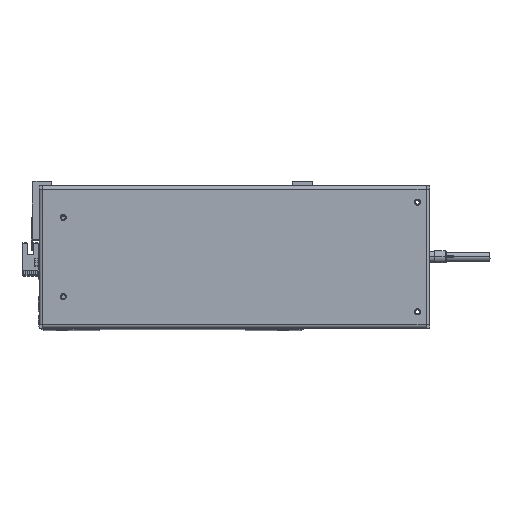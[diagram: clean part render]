
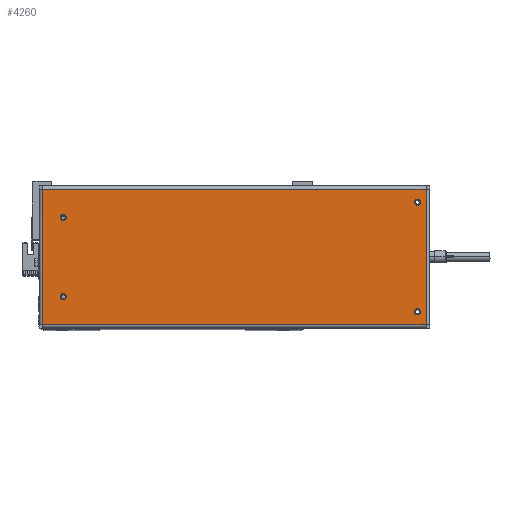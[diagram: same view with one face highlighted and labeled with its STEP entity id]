
A CAD part, top view. The second image highlights one B-rep face of the part: STEP entity #4260.
In plain terms, the highlighted planar face has unit normal (0, 0, 1).
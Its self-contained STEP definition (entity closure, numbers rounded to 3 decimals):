
#561 = VERTEX_POINT ( 'NONE', #34343 ) ;
#1110 = LINE ( 'NONE', #32255, #2465 ) ;
#1489 = CARTESIAN_POINT ( 'NONE',  ( -157.6, -55.6, 0. ) ) ;
#1651 = CIRCLE ( 'NONE', #2897, 2.5 ) ;
#1868 = DIRECTION ( 'NONE',  ( 1., 0., 0. ) ) ;
#1893 = ORIENTED_EDGE ( 'NONE', *, *, #34928, .T. ) ;
#2343 = VERTEX_POINT ( 'NONE', #22581 ) ;
#2355 = DIRECTION ( 'NONE',  ( 1., 0., 0. ) ) ;
#2450 = CIRCLE ( 'NONE', #6285, 2.5 ) ;
#2465 = VECTOR ( 'NONE', #14649, 1000. ) ;
#2897 = AXIS2_PLACEMENT_3D ( 'NONE', #5452, #38017, #17381 ) ;
#3111 = VERTEX_POINT ( 'NONE', #6008 ) ;
#3287 = CARTESIAN_POINT ( 'NONE',  ( 157.6, -55.6, 0. ) ) ;
#3309 = EDGE_LOOP ( 'NONE', ( #32192, #18634 ) ) ;
#4260 = ADVANCED_FACE ( 'NONE', ( #22640, #17963, #9576, #32453, #6731 ), #33094, .F. ) ;
#4299 = VERTEX_POINT ( 'NONE', #3287 ) ;
#4442 = VERTEX_POINT ( 'NONE', #1489 ) ;
#4484 = CARTESIAN_POINT ( 'NONE',  ( 153., 45., 0. ) ) ;
#4505 = EDGE_CURVE ( 'NONE', #29296, #8514, #24478, .T. ) ;
#5001 = EDGE_CURVE ( 'NONE', #31338, #35855, #2450, .T. ) ;
#5452 = CARTESIAN_POINT ( 'NONE',  ( -140.5, 32.5, 0. ) ) ;
#5898 = LINE ( 'NONE', #6632, #9705 ) ;
#5912 = ORIENTED_EDGE ( 'NONE', *, *, #38132, .F. ) ;
#6008 = CARTESIAN_POINT ( 'NONE',  ( 148., 45., 0. ) ) ;
#6285 = AXIS2_PLACEMENT_3D ( 'NONE', #35371, #11735, #38247 ) ;
#6632 = CARTESIAN_POINT ( 'NONE',  ( 157.7, 55.6, 0. ) ) ;
#6731 = FACE_OUTER_BOUND ( 'NONE', #35105, .T. ) ;
#7890 = LINE ( 'NONE', #9108, #9318 ) ;
#8514 = VERTEX_POINT ( 'NONE', #13318 ) ;
#8662 = CIRCLE ( 'NONE', #13573, 2.5 ) ;
#8829 = AXIS2_PLACEMENT_3D ( 'NONE', #29182, #20304, #2355 ) ;
#9108 = CARTESIAN_POINT ( 'NONE',  ( -157.6, 55.6, 0. ) ) ;
#9307 = EDGE_CURVE ( 'NONE', #561, #33883, #1651, .T. ) ;
#9318 = VECTOR ( 'NONE', #35635, 1000. ) ;
#9576 = FACE_BOUND ( 'NONE', #3309, .T. ) ;
#9605 = ORIENTED_EDGE ( 'NONE', *, *, #31990, .T. ) ;
#9705 = VECTOR ( 'NONE', #27560, 1000. ) ;
#10527 = AXIS2_PLACEMENT_3D ( 'NONE', #37928, #23029, #20040 ) ;
#10993 = DIRECTION ( 'NONE',  ( 1., 0., 0. ) ) ;
#11735 = DIRECTION ( 'NONE',  ( 0., 0., 1. ) ) ;
#13318 = CARTESIAN_POINT ( 'NONE',  ( 148., -45., 0. ) ) ;
#13573 = AXIS2_PLACEMENT_3D ( 'NONE', #20576, #26519, #10993 ) ;
#13917 = CARTESIAN_POINT ( 'NONE',  ( 150.5, -45., 0. ) ) ;
#14649 = DIRECTION ( 'NONE',  ( 0., 1., 0. ) ) ;
#14801 = EDGE_CURVE ( 'NONE', #33883, #561, #38730, .T. ) ;
#15829 = CIRCLE ( 'NONE', #28443, 2.5 ) ;
#17031 = DIRECTION ( 'NONE',  ( 1., 0., 0. ) ) ;
#17381 = DIRECTION ( 'NONE',  ( 1., 0., 0. ) ) ;
#17597 = AXIS2_PLACEMENT_3D ( 'NONE', #13917, #34799, #17031 ) ;
#17960 = DIRECTION ( 'NONE',  ( -1., 0., 0. ) ) ;
#17963 = FACE_BOUND ( 'NONE', #25025, .T. ) ;
#18168 = CARTESIAN_POINT ( 'NONE',  ( -138., -32.5, 0. ) ) ;
#18609 = ORIENTED_EDGE ( 'NONE', *, *, #14801, .F. ) ;
#18634 = ORIENTED_EDGE ( 'NONE', *, *, #23321, .F. ) ;
#19279 = EDGE_CURVE ( 'NONE', #3111, #27279, #15829, .T. ) ;
#19935 = LINE ( 'NONE', #34176, #37190 ) ;
#20040 = DIRECTION ( 'NONE',  ( 1., 0., 0. ) ) ;
#20304 = DIRECTION ( 'NONE',  ( 0., 0., 1. ) ) ;
#20576 = CARTESIAN_POINT ( 'NONE',  ( 150.5, 45., 0. ) ) ;
#21417 = CARTESIAN_POINT ( 'NONE',  ( 153., -45., 0. ) ) ;
#21971 = DIRECTION ( 'NONE',  ( 1., 0., 0. ) ) ;
#22339 = ORIENTED_EDGE ( 'NONE', *, *, #19279, .F. ) ;
#22476 = DIRECTION ( 'NONE',  ( 0., 0., 1. ) ) ;
#22581 = CARTESIAN_POINT ( 'NONE',  ( 157.6, 55.6, 0. ) ) ;
#22640 = FACE_BOUND ( 'NONE', #22759, .T. ) ;
#22759 = EDGE_LOOP ( 'NONE', ( #5912, #25767 ) ) ;
#23029 = DIRECTION ( 'NONE',  ( 0., 0., 1. ) ) ;
#23321 = EDGE_CURVE ( 'NONE', #8514, #29296, #32613, .T. ) ;
#24081 = CARTESIAN_POINT ( 'NONE',  ( 157.7, 58.5, 0. ) ) ;
#24233 = DIRECTION ( 'NONE',  ( 0., 0., 1. ) ) ;
#24478 = CIRCLE ( 'NONE', #17597, 2.5 ) ;
#24621 = EDGE_CURVE ( 'NONE', #4442, #4299, #19935, .T. ) ;
#25014 = EDGE_CURVE ( 'NONE', #27279, #3111, #8662, .T. ) ;
#25025 = EDGE_LOOP ( 'NONE', ( #38297, #18609 ) ) ;
#25053 = CIRCLE ( 'NONE', #30599, 2.5 ) ;
#25767 = ORIENTED_EDGE ( 'NONE', *, *, #5001, .F. ) ;
#26008 = CARTESIAN_POINT ( 'NONE',  ( -143., -32.5, 0. ) ) ;
#26519 = DIRECTION ( 'NONE',  ( 0., 0., 1. ) ) ;
#27279 = VERTEX_POINT ( 'NONE', #4484 ) ;
#27560 = DIRECTION ( 'NONE',  ( -1., 0., 0. ) ) ;
#28443 = AXIS2_PLACEMENT_3D ( 'NONE', #33662, #24233, #33117 ) ;
#28765 = EDGE_LOOP ( 'NONE', ( #34080, #22339 ) ) ;
#29182 = CARTESIAN_POINT ( 'NONE',  ( -140.5, 32.5, 0. ) ) ;
#29222 = EDGE_CURVE ( 'NONE', #36723, #4442, #7890, .T. ) ;
#29296 = VERTEX_POINT ( 'NONE', #21417 ) ;
#29550 = CARTESIAN_POINT ( 'NONE',  ( -143., 32.5, 0. ) ) ;
#30599 = AXIS2_PLACEMENT_3D ( 'NONE', #30954, #22476, #21971 ) ;
#30793 = AXIS2_PLACEMENT_3D ( 'NONE', #24081, #32833, #17960 ) ;
#30954 = CARTESIAN_POINT ( 'NONE',  ( -140.5, -32.5, 0. ) ) ;
#31338 = VERTEX_POINT ( 'NONE', #26008 ) ;
#31990 = EDGE_CURVE ( 'NONE', #2343, #36723, #5898, .T. ) ;
#32192 = ORIENTED_EDGE ( 'NONE', *, *, #4505, .F. ) ;
#32255 = CARTESIAN_POINT ( 'NONE',  ( 157.6, -55.6, 0. ) ) ;
#32453 = FACE_BOUND ( 'NONE', #28765, .T. ) ;
#32613 = CIRCLE ( 'NONE', #10527, 2.5 ) ;
#32833 = DIRECTION ( 'NONE',  ( 0., 0., -1. ) ) ;
#33094 = PLANE ( 'NONE',  #30793 ) ;
#33117 = DIRECTION ( 'NONE',  ( 1., 0., 0. ) ) ;
#33662 = CARTESIAN_POINT ( 'NONE',  ( 150.5, 45., 0. ) ) ;
#33883 = VERTEX_POINT ( 'NONE', #29550 ) ;
#34080 = ORIENTED_EDGE ( 'NONE', *, *, #25014, .F. ) ;
#34176 = CARTESIAN_POINT ( 'NONE',  ( -157.7, -55.6, 0. ) ) ;
#34343 = CARTESIAN_POINT ( 'NONE',  ( -138., 32.5, 0. ) ) ;
#34799 = DIRECTION ( 'NONE',  ( 0., 0., 1. ) ) ;
#34928 = EDGE_CURVE ( 'NONE', #4299, #2343, #1110, .T. ) ;
#35105 = EDGE_LOOP ( 'NONE', ( #36872, #36871, #1893, #9605 ) ) ;
#35371 = CARTESIAN_POINT ( 'NONE',  ( -140.5, -32.5, 0. ) ) ;
#35635 = DIRECTION ( 'NONE',  ( 0., -1., 0. ) ) ;
#35855 = VERTEX_POINT ( 'NONE', #18168 ) ;
#36087 = CARTESIAN_POINT ( 'NONE',  ( -157.6, 55.6, 0. ) ) ;
#36723 = VERTEX_POINT ( 'NONE', #36087 ) ;
#36871 = ORIENTED_EDGE ( 'NONE', *, *, #24621, .T. ) ;
#36872 = ORIENTED_EDGE ( 'NONE', *, *, #29222, .T. ) ;
#37190 = VECTOR ( 'NONE', #1868, 1000. ) ;
#37928 = CARTESIAN_POINT ( 'NONE',  ( 150.5, -45., 0. ) ) ;
#38017 = DIRECTION ( 'NONE',  ( 0., 0., 1. ) ) ;
#38132 = EDGE_CURVE ( 'NONE', #35855, #31338, #25053, .T. ) ;
#38247 = DIRECTION ( 'NONE',  ( 1., 0., 0. ) ) ;
#38297 = ORIENTED_EDGE ( 'NONE', *, *, #9307, .F. ) ;
#38730 = CIRCLE ( 'NONE', #8829, 2.5 ) ;
